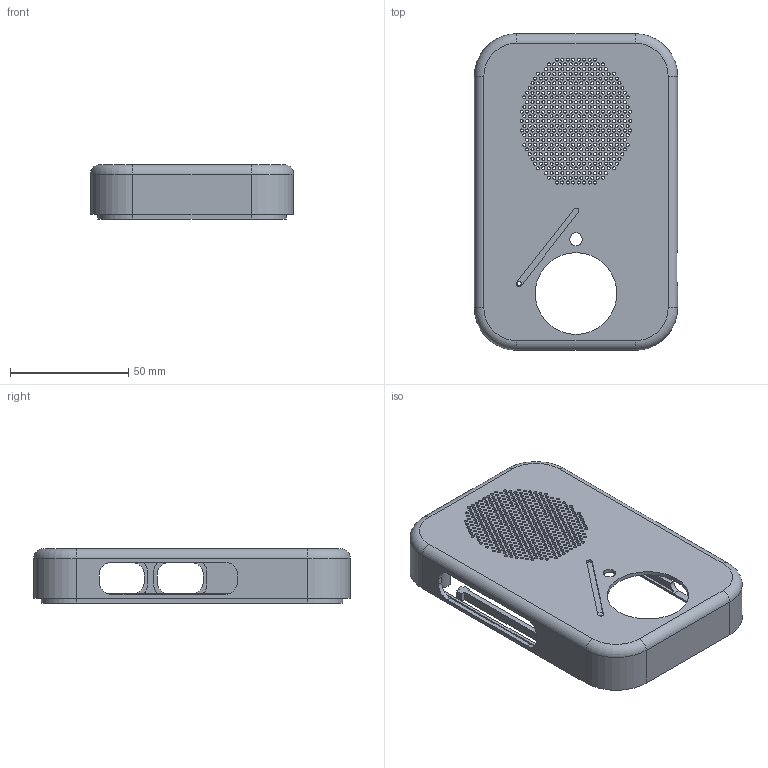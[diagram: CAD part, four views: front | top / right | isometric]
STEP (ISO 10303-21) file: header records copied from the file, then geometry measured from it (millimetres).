
FILE_DESCRIPTION(('Open CASCADE Model'),'2;1');
FILE_NAME('Open CASCADE Shape Model','2026-09-04T20:18:18',('Author'),( 'Open CASCADE'),'Open CASCADE STEP processor 7.7','Open CASCADE 7.7' ,'Unknown');
FILE_SCHEMA(('AUTOMOTIVE_DESIGN { 1 0 10303 214 1 1 1 1 }'));
Products named in the file (1): Open CASCADE STEP translator 7.7 2
Bounding box: 86 x 134 x 23.05 mm (x, y, z)
Volume: 36594.2 mm3; surface area: 42611.5 mm2
Topology: 1 solids, 3 shells, 711 faces, 2098 edges, 1391 vertices
Faces by surface type: cylinder 532, plane 171, torus 8
Full cylindrical faces by diameter (mm): 1.3 x453, 1.8 x1, 5.4 x1, 6.3 x1, 34.6 x1
Entity records: 55933 total; most frequent: CARTESIAN_POINT 14947, DIRECTION 7295, ORIENTED_EDGE 4196, PCURVE 4196, DEFINITIONAL_REPRESENTATION 4196, LINE 3558, VECTOR 3558, EDGE_CURVE 2098
